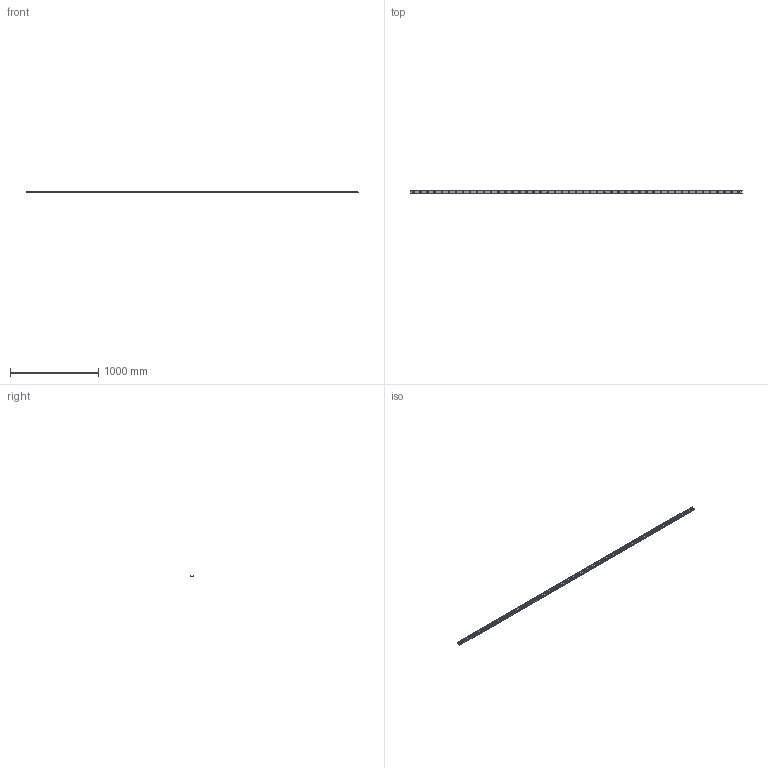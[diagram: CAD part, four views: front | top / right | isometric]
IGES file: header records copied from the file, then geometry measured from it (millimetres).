
Start section: SolidWorks IGES file using analytic representation for surfaces
Global section: file name: C:\Users\IanO\Desktop\43\L1943.ULV43_v2_20180121_IGES\L1943.ULV43-3760.igs; native system: SolidWorks 2017; preprocessor: SolidWorks 2017; author: IanO; date: 190121.090644; units: millimetre
Bounding box: 3760 x 43 x 21 mm (x, y, z)
Surface area: 583221.8 mm2 (no closed solid volume)
Topology: 0 solids, 0 shells, 214 faces, 4054 edges, 4054 vertices
Faces by surface type: revolution 201, bspline 13
